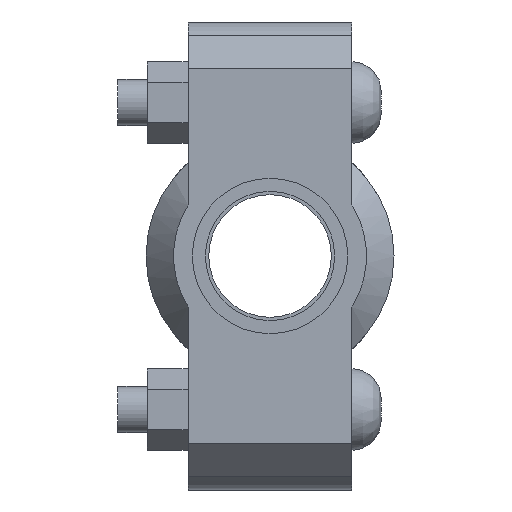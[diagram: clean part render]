
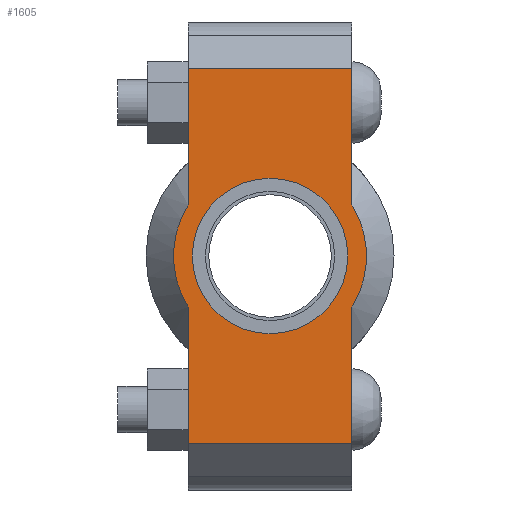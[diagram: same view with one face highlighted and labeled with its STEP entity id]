
A CAD part, left-side view. The second image highlights one B-rep face of the part: STEP entity #1605.
In plain terms, the highlighted planar face has unit normal (-1, 0, 0) as drawn and (0, 0, 1) by its records, which use the part's own axes.
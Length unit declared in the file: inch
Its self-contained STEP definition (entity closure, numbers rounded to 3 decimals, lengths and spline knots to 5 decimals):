
#160=LINE('',#2775,#257);
#175=LINE('',#2834,#272);
#183=LINE('',#2864,#280);
#185=LINE('',#2867,#282);
#186=LINE('',#2872,#283);
#187=LINE('',#2873,#284);
#257=VECTOR('',#2259,0.3937);
#272=VECTOR('',#2294,0.3937);
#280=VECTOR('',#2314,0.3937);
#282=VECTOR('',#2318,0.3937);
#283=VECTOR('',#2323,0.3937);
#284=VECTOR('',#2324,0.3937);
#348=FACE_BOUND('',#525,.T.);
#416=FACE_OUTER_BOUND('',#524,.T.);
#524=EDGE_LOOP('',(#1306,#1307,#1308,#1309,#1310,#1311,#1312,#1313));
#525=EDGE_LOOP('',(#1314));
#607=CIRCLE('',#1833,0.83);
#631=CIRCLE('',#1885,1.031);
#632=CIRCLE('',#1886,1.031);
#703=VERTEX_POINT('',#2601);
#744=VERTEX_POINT('',#2772);
#745=VERTEX_POINT('',#2774);
#766=VERTEX_POINT('',#2829);
#767=VERTEX_POINT('',#2833);
#776=VERTEX_POINT('',#2859);
#777=VERTEX_POINT('',#2863);
#778=VERTEX_POINT('',#2869);
#779=VERTEX_POINT('',#2871);
#867=EDGE_CURVE('',#703,#703,#607,.T.);
#924=EDGE_CURVE('',#745,#744,#160,.T.);
#949=EDGE_CURVE('',#767,#766,#175,.T.);
#962=EDGE_CURVE('',#777,#776,#183,.T.);
#964=EDGE_CURVE('',#777,#744,#185,.T.);
#965=EDGE_CURVE('',#776,#778,#631,.T.);
#966=EDGE_CURVE('',#778,#779,#186,.T.);
#967=EDGE_CURVE('',#767,#779,#187,.T.);
#968=EDGE_CURVE('',#766,#745,#632,.T.);
#1306=ORIENTED_EDGE('',*,*,#964,.F.);
#1307=ORIENTED_EDGE('',*,*,#962,.T.);
#1308=ORIENTED_EDGE('',*,*,#965,.T.);
#1309=ORIENTED_EDGE('',*,*,#966,.T.);
#1310=ORIENTED_EDGE('',*,*,#967,.F.);
#1311=ORIENTED_EDGE('',*,*,#949,.T.);
#1312=ORIENTED_EDGE('',*,*,#968,.T.);
#1313=ORIENTED_EDGE('',*,*,#924,.T.);
#1314=ORIENTED_EDGE('',*,*,#867,.T.);
#1445=PLANE('',#1884);
#1605=ADVANCED_FACE('',(#416,#348),#1445,.T.);
#1833=AXIS2_PLACEMENT_3D('',#2603,#2149,#2150);
#1884=AXIS2_PLACEMENT_3D('',#2868,#2319,#2320);
#1885=AXIS2_PLACEMENT_3D('',#2870,#2321,#2322);
#1886=AXIS2_PLACEMENT_3D('',#2874,#2325,#2326);
#2149=DIRECTION('center_axis',(0.,0.,-1.));
#2150=DIRECTION('ref_axis',(-1.,0.,0.));
#2259=DIRECTION('',(-1.,0.,0.));
#2294=DIRECTION('',(-1.,0.,0.));
#2314=DIRECTION('',(1.,0.,0.));
#2318=DIRECTION('',(0.,1.,0.));
#2319=DIRECTION('center_axis',(0.,0.,1.));
#2320=DIRECTION('ref_axis',(1.,0.,0.));
#2321=DIRECTION('center_axis',(0.,0.,1.));
#2322=DIRECTION('ref_axis',(-1.,0.,0.));
#2323=DIRECTION('',(1.,0.,0.));
#2324=DIRECTION('',(0.,-1.,0.));
#2325=DIRECTION('center_axis',(0.,0.,1.));
#2326=DIRECTION('ref_axis',(-1.,0.,0.));
#2601=CARTESIAN_POINT('',(0.83,0.,0.94));
#2603=CARTESIAN_POINT('Origin',(0.,0.,0.94));
#2772=CARTESIAN_POINT('',(-2.,0.875,0.94));
#2774=CARTESIAN_POINT('',(-0.54529,0.875,0.94));
#2775=CARTESIAN_POINT('',(2.5,0.875,0.94));
#2829=CARTESIAN_POINT('',(0.54529,0.875,0.94));
#2833=CARTESIAN_POINT('',(2.,0.875,0.94));
#2834=CARTESIAN_POINT('',(2.5,0.875,0.94));
#2859=CARTESIAN_POINT('',(-0.54529,-0.875,0.94));
#2863=CARTESIAN_POINT('',(-2.,-0.875,0.94));
#2864=CARTESIAN_POINT('',(-2.5,-0.875,0.94));
#2867=CARTESIAN_POINT('',(-2.,0.4375,0.94));
#2868=CARTESIAN_POINT('Origin',(0.,0.,
0.94));
#2869=CARTESIAN_POINT('',(0.54529,-0.875,0.94));
#2870=CARTESIAN_POINT('Origin',(0.,0.,0.94));
#2871=CARTESIAN_POINT('',(2.,-0.875,0.94));
#2872=CARTESIAN_POINT('',(-2.5,-0.875,0.94));
#2873=CARTESIAN_POINT('',(2.,-0.4375,0.94));
#2874=CARTESIAN_POINT('Origin',(0.,0.,0.94));
